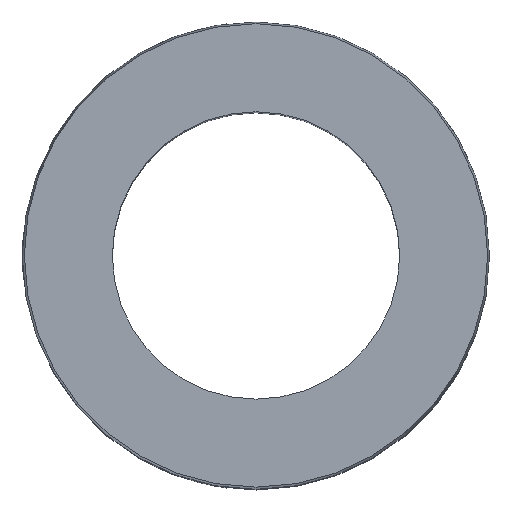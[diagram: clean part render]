
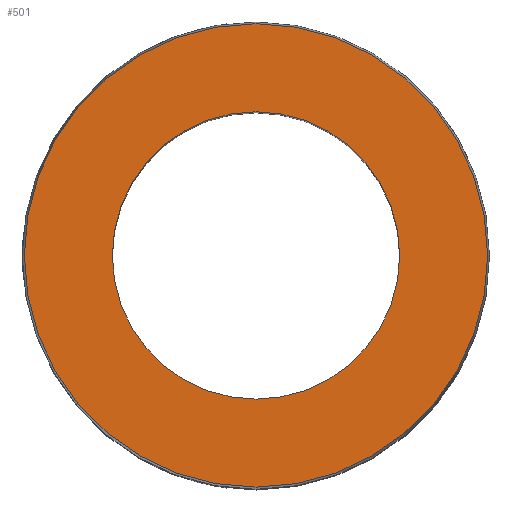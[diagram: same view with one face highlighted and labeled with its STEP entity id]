
A CAD part, top view. The second image highlights one B-rep face of the part: STEP entity #501.
In plain terms, the highlighted planar face has unit normal (0, 0, 1).
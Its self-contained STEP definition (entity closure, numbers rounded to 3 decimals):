
#49=CARTESIAN_POINT('',(-10.799,1.811,36.0));
#50=VERTEX_POINT('',#49);
#59=CARTESIAN_POINT('',(5.201,1.811,36.0));
#60=VERTEX_POINT('',#59);
#61=CARTESIAN_POINT('',(-2.799,1.811,36.0));
#62=DIRECTION('',(0.0,0.0,-1.0));
#63=DIRECTION('',(-1.0,0.0,0.0));
#64=AXIS2_PLACEMENT_3D('',#61,#62,#63);
#65=CIRCLE('',#64,8.0);
#66=EDGE_CURVE('',#60,#50,#65,.T.);
#277=CARTESIAN_POINT('',(-15.699,1.811,36.0));
#278=VERTEX_POINT('',#277);
#285=CARTESIAN_POINT('',(10.101,1.811,36.0));
#286=VERTEX_POINT('',#285);
#287=CARTESIAN_POINT('',(-2.799,1.811,36.0));
#288=DIRECTION('',(0.0,0.0,-1.0));
#289=DIRECTION('',(-1.0,0.0,0.0));
#290=AXIS2_PLACEMENT_3D('',#287,#288,#289);
#291=CIRCLE('',#290,12.9);
#292=EDGE_CURVE('',#278,#286,#291,.T.);
#454=CARTESIAN_POINT('',(-2.799,1.811,36.0));
#455=DIRECTION('',(0.0,0.0,-1.0));
#456=DIRECTION('',(-1.0,0.0,0.0));
#457=AXIS2_PLACEMENT_3D('',#454,#455,#456);
#458=CIRCLE('',#457,12.9);
#459=EDGE_CURVE('',#286,#278,#458,.T.);
#482=CARTESIAN_POINT('',(-2.799,1.811,36.0));
#483=DIRECTION('',(0.0,0.0,-1.0));
#484=DIRECTION('',(-1.0,0.0,0.0));
#485=AXIS2_PLACEMENT_3D('',#482,#483,#484);
#486=PLANE('',#485);
#487=ORIENTED_EDGE('',*,*,#459,.F.);
#488=ORIENTED_EDGE('',*,*,#292,.F.);
#489=EDGE_LOOP('',(#487,#488));
#490=FACE_OUTER_BOUND('',#489,.T.);
#491=ORIENTED_EDGE('',*,*,#66,.T.);
#492=CARTESIAN_POINT('',(-2.799,1.811,36.0));
#493=DIRECTION('',(0.0,0.0,-1.0));
#494=DIRECTION('',(-1.0,0.0,0.0));
#495=AXIS2_PLACEMENT_3D('',#492,#493,#494);
#496=CIRCLE('',#495,8.0);
#497=EDGE_CURVE('',#50,#60,#496,.T.);
#498=ORIENTED_EDGE('',*,*,#497,.T.);
#499=EDGE_LOOP('',(#491,#498));
#500=FACE_BOUND('',#499,.T.);
#501=ADVANCED_FACE('',(#490,#500),#486,.F.);
